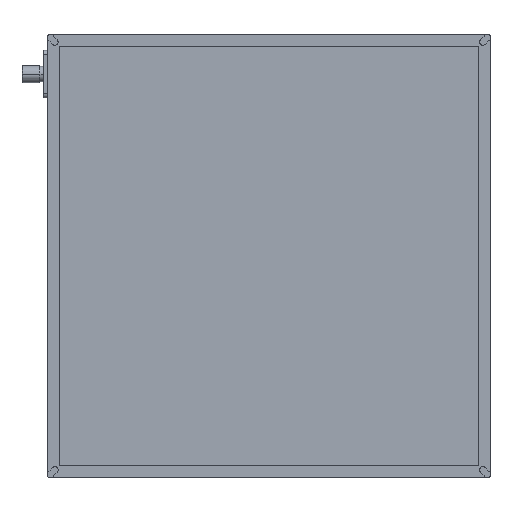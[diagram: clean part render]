
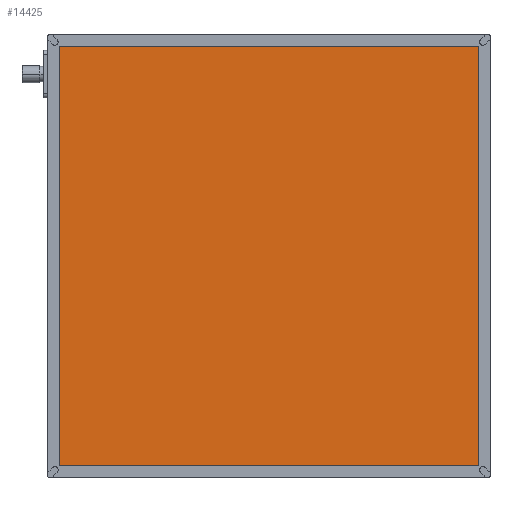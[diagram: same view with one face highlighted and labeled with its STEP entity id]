
A CAD part, top view. The second image highlights one B-rep face of the part: STEP entity #14425.
In plain terms, the highlighted planar face has unit normal (0, 0, 1).
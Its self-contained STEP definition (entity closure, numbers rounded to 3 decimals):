
#373 = ORIENTED_EDGE ( 'NONE', *, *, #12905, .T. ) ;
#1037 = VERTEX_POINT ( 'NONE', #13568 ) ;
#1570 = LINE ( 'NONE', #4568, #16129 ) ;
#2438 = CARTESIAN_POINT ( 'NONE',  ( 296., 296., 41.85 ) ) ;
#2649 = LINE ( 'NONE', #3982, #7693 ) ;
#2741 = ORIENTED_EDGE ( 'NONE', *, *, #7912, .T. ) ;
#2870 = CARTESIAN_POINT ( 'NONE',  ( 0., 0., 41.85 ) ) ;
#3052 = DIRECTION ( 'NONE',  ( -1., 0., 0. ) ) ;
#3689 = LINE ( 'NONE', #8364, #14084 ) ;
#3982 = CARTESIAN_POINT ( 'NONE',  ( 296., 0., 41.85 ) ) ;
#4568 = CARTESIAN_POINT ( 'NONE',  ( 0., 4., 41.85 ) ) ;
#5526 = CARTESIAN_POINT ( 'NONE',  ( 296., 4., 41.85 ) ) ;
#6197 = VECTOR ( 'NONE', #9415, 1000. ) ;
#6982 = DIRECTION ( 'NONE',  ( 1., 0., 0. ) ) ;
#7693 = VECTOR ( 'NONE', #15982, 1000. ) ;
#7912 = EDGE_CURVE ( 'NONE', #15796, #16528, #16383, .T. ) ;
#8364 = CARTESIAN_POINT ( 'NONE',  ( 4., 0., 41.85 ) ) ;
#9415 = DIRECTION ( 'NONE',  ( -1., 0., 0. ) ) ;
#9512 = DIRECTION ( 'NONE',  ( 0., -1., 0. ) ) ;
#9528 = ORIENTED_EDGE ( 'NONE', *, *, #12070, .T. ) ;
#9589 = PLANE ( 'NONE',  #14473 ) ;
#9641 = EDGE_CURVE ( 'NONE', #16528, #1037, #3689, .T. ) ;
#9730 = VERTEX_POINT ( 'NONE', #5526 ) ;
#9762 = DIRECTION ( 'NONE',  ( 0., 0., -1. ) ) ;
#10582 = EDGE_LOOP ( 'NONE', ( #373, #2741, #13613, #9528 ) ) ;
#10739 = CARTESIAN_POINT ( 'NONE',  ( 0., 296., 41.85 ) ) ;
#12070 = EDGE_CURVE ( 'NONE', #1037, #9730, #1570, .T. ) ;
#12537 = CARTESIAN_POINT ( 'NONE',  ( 4., 296., 41.85 ) ) ;
#12905 = EDGE_CURVE ( 'NONE', #9730, #15796, #2649, .T. ) ;
#13568 = CARTESIAN_POINT ( 'NONE',  ( 4., 4., 41.85 ) ) ;
#13613 = ORIENTED_EDGE ( 'NONE', *, *, #9641, .T. ) ;
#14084 = VECTOR ( 'NONE', #9512, 1000. ) ;
#14425 = ADVANCED_FACE ( 'NONE', ( #16293 ), #9589, .F. ) ;
#14473 = AXIS2_PLACEMENT_3D ( 'NONE', #2870, #9762, #3052 ) ;
#15796 = VERTEX_POINT ( 'NONE', #2438 ) ;
#15982 = DIRECTION ( 'NONE',  ( 0., 1., 0. ) ) ;
#16129 = VECTOR ( 'NONE', #6982, 1000. ) ;
#16293 = FACE_OUTER_BOUND ( 'NONE', #10582, .T. ) ;
#16383 = LINE ( 'NONE', #10739, #6197 ) ;
#16528 = VERTEX_POINT ( 'NONE', #12537 ) ;
